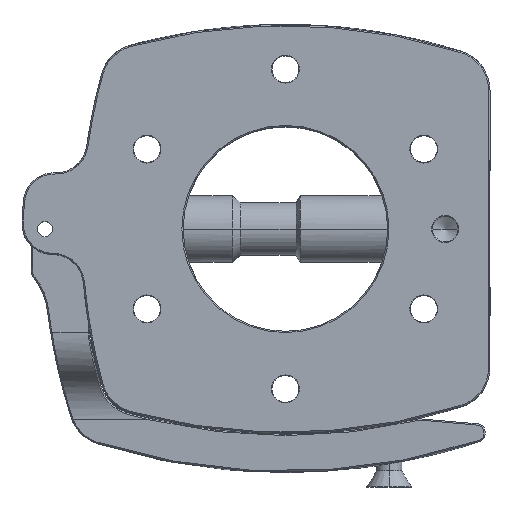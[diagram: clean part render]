
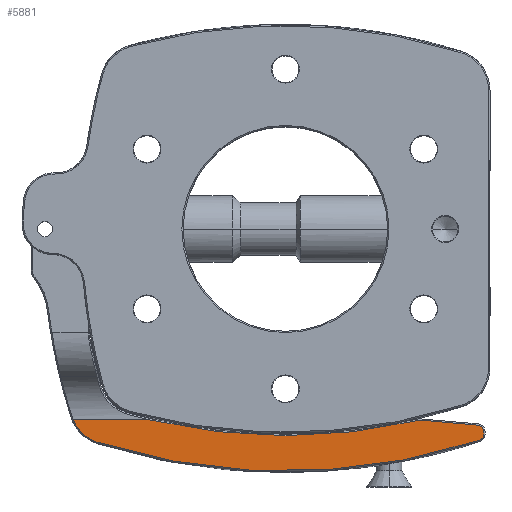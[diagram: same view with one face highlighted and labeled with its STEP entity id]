
A CAD part, top view. The second image highlights one B-rep face of the part: STEP entity #5881.
In plain terms, the highlighted planar face has unit normal (0, 0, 1).
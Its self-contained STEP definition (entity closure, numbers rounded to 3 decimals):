
#523 = LINE ( 'NONE', #15371, #3518 ) ;
#541 = CARTESIAN_POINT ( 'NONE',  ( 75.825, -82.595, 18.15 ) ) ;
#754 = CARTESIAN_POINT ( 'NONE',  ( 0., 149.85, 18.15 ) ) ;
#1398 = AXIS2_PLACEMENT_3D ( 'NONE', #754, #7279, #7181 ) ;
#1490 = DIRECTION ( 'NONE',  ( 0., -1., 0. ) ) ;
#1526 = CARTESIAN_POINT ( 'NONE',  ( 77.55, -80.218, 18.15 ) ) ;
#1665 = CARTESIAN_POINT ( 'NONE',  ( 77.55, -79.133, 18.15 ) ) ;
#1906 = DIRECTION ( 'NONE',  ( 0., -1., 0. ) ) ;
#2406 = AXIS2_PLACEMENT_3D ( 'NONE', #15109, #17163, #10839 ) ;
#2457 = CARTESIAN_POINT ( 'NONE',  ( 75.05, -80.218, 18.15 ) ) ;
#2540 = LINE ( 'NONE', #14800, #21536 ) ;
#2570 = DIRECTION ( 'NONE',  ( -1., 0., 0. ) ) ;
#2690 = DIRECTION ( 'NONE',  ( 0., 0., 1. ) ) ;
#3518 = VECTOR ( 'NONE', #2570, 1000. ) ;
#3734 = DIRECTION ( 'NONE',  ( 0., 0., 1. ) ) ;
#4155 = ORIENTED_EDGE ( 'NONE', *, *, #19481, .T. ) ;
#4611 = DIRECTION ( 'NONE',  ( 0., -1., 0. ) ) ;
#4695 = LINE ( 'NONE', #13421, #22650 ) ;
#4773 = CIRCLE ( 'NONE', #1398, 244.5 ) ;
#5029 = VERTEX_POINT ( 'NONE', #541 ) ;
#5489 = EDGE_CURVE ( 'NONE', #13845, #12363, #2540, .T. ) ;
#5669 = VERTEX_POINT ( 'NONE', #12335 ) ;
#5881 = ADVANCED_FACE ( 'NONE', ( #25853 ), #21101, .F. ) ;
#6344 = ORIENTED_EDGE ( 'NONE', *, *, #7590, .T. ) ;
#7181 = DIRECTION ( 'NONE',  ( 0., -1., 0. ) ) ;
#7279 = DIRECTION ( 'NONE',  ( 0., 0., 1. ) ) ;
#7590 = EDGE_CURVE ( 'NONE', #15808, #16705, #523, .T. ) ;
#7658 = AXIS2_PLACEMENT_3D ( 'NONE', #25298, #25401, #1906 ) ;
#7761 = CARTESIAN_POINT ( 'NONE',  ( -82.933, -74.588, 18.15 ) ) ;
#8520 = ORIENTED_EDGE ( 'NONE', *, *, #9885, .T. ) ;
#9885 = EDGE_CURVE ( 'NONE', #19264, #5029, #4773, .T. ) ;
#10035 = CIRCLE ( 'NONE', #21215, 2.5 ) ;
#10839 = DIRECTION ( 'NONE',  ( 0., -1., 0. ) ) ;
#11196 = CARTESIAN_POINT ( 'NONE',  ( -52.953, -74.588, 18.15 ) ) ;
#11670 = EDGE_CURVE ( 'NONE', #5029, #13845, #10035, .T. ) ;
#11735 = ORIENTED_EDGE ( 'NONE', *, *, #5489, .T. ) ;
#12213 = EDGE_CURVE ( 'NONE', #12363, #24017, #25974, .T. ) ;
#12335 = CARTESIAN_POINT ( 'NONE',  ( 52.636, -74.662, 18.15 ) ) ;
#12363 = VERTEX_POINT ( 'NONE', #1665 ) ;
#12823 = AXIS2_PLACEMENT_3D ( 'NONE', #21780, #2690, #21944 ) ;
#13421 = CARTESIAN_POINT ( 'NONE',  ( 76.115, -76.716, 18.15 ) ) ;
#13845 = VERTEX_POINT ( 'NONE', #1526 ) ;
#14097 = CARTESIAN_POINT ( 'NONE',  ( -73.27, -83.413, 18.15 ) ) ;
#14800 = CARTESIAN_POINT ( 'NONE',  ( 77.55, -54.6, 18.15 ) ) ;
#14817 = ORIENTED_EDGE ( 'NONE', *, *, #20893, .T. ) ;
#15109 = CARTESIAN_POINT ( 'NONE',  ( 0., 149.85, 18.15 ) ) ;
#15371 = CARTESIAN_POINT ( 'NONE',  ( 78.05, -74.588, 18.15 ) ) ;
#15455 = DIRECTION ( 'NONE',  ( -0.996, 0.087, 0. ) ) ;
#15808 = VERTEX_POINT ( 'NONE', #11196 ) ;
#16080 = CIRCLE ( 'NONE', #12823, 15.5 ) ;
#16532 = CARTESIAN_POINT ( 'NONE',  ( 75.05, -79.133, 18.15 ) ) ;
#16705 = VERTEX_POINT ( 'NONE', #7761 ) ;
#17163 = DIRECTION ( 'NONE',  ( 0., 0., -1. ) ) ;
#17372 = ORIENTED_EDGE ( 'NONE', *, *, #21552, .T. ) ;
#17477 = CIRCLE ( 'NONE', #2406, 230.6 ) ;
#17691 = AXIS2_PLACEMENT_3D ( 'NONE', #16532, #3734, #1490 ) ;
#19264 = VERTEX_POINT ( 'NONE', #14097 ) ;
#19481 = EDGE_CURVE ( 'NONE', #5669, #15808, #17477, .T. ) ;
#20236 = ORIENTED_EDGE ( 'NONE', *, *, #11670, .T. ) ;
#20720 = ORIENTED_EDGE ( 'NONE', *, *, #12213, .T. ) ;
#20893 = EDGE_CURVE ( 'NONE', #16705, #19264, #16080, .T. ) ;
#21101 = PLANE ( 'NONE',  #7658 ) ;
#21215 = AXIS2_PLACEMENT_3D ( 'NONE', #2457, #23780, #4611 ) ;
#21536 = VECTOR ( 'NONE', #23567, 1000. ) ;
#21552 = EDGE_CURVE ( 'NONE', #24017, #5669, #4695, .T. ) ;
#21780 = CARTESIAN_POINT ( 'NONE',  ( -68.625, -68.625, 18.15 ) ) ;
#21944 = DIRECTION ( 'NONE',  ( 0., -1., 0. ) ) ;
#22650 = VECTOR ( 'NONE', #15455, 1000. ) ;
#23482 = CARTESIAN_POINT ( 'NONE',  ( 75.268, -76.642, 18.15 ) ) ;
#23567 = DIRECTION ( 'NONE',  ( 0., 1., 0. ) ) ;
#23780 = DIRECTION ( 'NONE',  ( 0., 0., 1. ) ) ;
#24017 = VERTEX_POINT ( 'NONE', #23482 ) ;
#25298 = CARTESIAN_POINT ( 'NONE',  ( 78.05, -54.6, 18.15 ) ) ;
#25401 = DIRECTION ( 'NONE',  ( 0., 0., -1. ) ) ;
#25853 = FACE_OUTER_BOUND ( 'NONE', #26075, .T. ) ;
#25974 = CIRCLE ( 'NONE', #17691, 2.5 ) ;
#26075 = EDGE_LOOP ( 'NONE', ( #6344, #14817, #8520, #20236, #11735, #20720, #17372, #4155 ) ) ;
